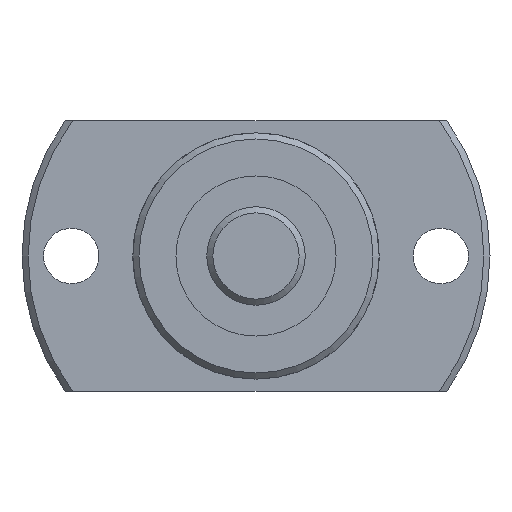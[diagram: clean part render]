
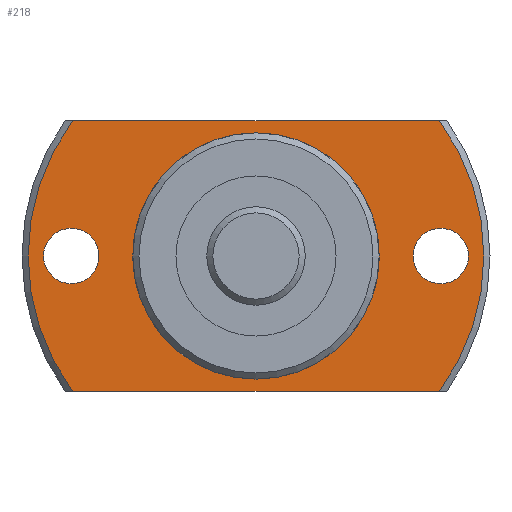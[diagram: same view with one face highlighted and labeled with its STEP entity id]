
A CAD part, left-side view. The second image highlights one B-rep face of the part: STEP entity #218.
In plain terms, the highlighted planar face has unit normal (-1, 0, 0).
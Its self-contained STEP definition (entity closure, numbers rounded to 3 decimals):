
#218 = ADVANCED_FACE( '', ( #368, #369, #370, #371 ), #372, .F. );
#368 = FACE_OUTER_BOUND( '', #547, .T. );
#369 = FACE_BOUND( '', #548, .T. );
#370 = FACE_BOUND( '', #549, .T. );
#371 = FACE_BOUND( '', #550, .T. );
#372 = PLANE( '', #551 );
#547 = EDGE_LOOP( '', ( #934, #935, #936, #937 ) );
#548 = EDGE_LOOP( '', ( #938 ) );
#549 = EDGE_LOOP( '', ( #939 ) );
#550 = EDGE_LOOP( '', ( #940 ) );
#551 = AXIS2_PLACEMENT_3D( '', #941, #942, #943 );
#934 = ORIENTED_EDGE( '', *, *, #1143, .F. );
#935 = ORIENTED_EDGE( '', *, *, #1202, .T. );
#936 = ORIENTED_EDGE( '', *, *, #1213, .F. );
#937 = ORIENTED_EDGE( '', *, *, #1137, .T. );
#938 = ORIENTED_EDGE( '', *, *, #1198, .T. );
#939 = ORIENTED_EDGE( '', *, *, #1196, .T. );
#940 = ORIENTED_EDGE( '', *, *, #1214, .T. );
#941 = CARTESIAN_POINT( '', ( 19., 9.85, 0. ) );
#942 = DIRECTION( '', ( 1., 0., 0. ) );
#943 = DIRECTION( '', ( 0., 0., -1. ) );
#1137 = EDGE_CURVE( '', #1307, #1305, #1308, .T. );
#1143 = EDGE_CURVE( '', #1318, #1305, #1319, .T. );
#1196 = EDGE_CURVE( '', #1413, #1413, #1414, .T. );
#1198 = EDGE_CURVE( '', #1417, #1417, #1418, .T. );
#1202 = EDGE_CURVE( '', #1318, #1424, #1426, .T. );
#1213 = EDGE_CURVE( '', #1307, #1424, #1441, .T. );
#1214 = EDGE_CURVE( '', #1442, #1442, #1443, .T. );
#1305 = VERTEX_POINT( '', #1568 );
#1307 = VERTEX_POINT( '', #1573 );
#1308 = LINE( '', #1574, #1575 );
#1318 = VERTEX_POINT( '', #1596 );
#1319 = CIRCLE( '', #1597, 18.5 );
#1413 = VERTEX_POINT( '', #1754 );
#1414 = CIRCLE( '', #1755, 2.25 );
#1417 = VERTEX_POINT( '', #1758 );
#1418 = CIRCLE( '', #1759, 2.25 );
#1424 = VERTEX_POINT( '', #1766 );
#1426 = LINE( '', #1771, #1772 );
#1441 = CIRCLE( '', #1795, 18.5 );
#1442 = VERTEX_POINT( '', #1796 );
#1443 = CIRCLE( '', #1797, 9.85 );
#1568 = CARTESIAN_POINT( '', ( 19., 14.874, 11. ) );
#1573 = CARTESIAN_POINT( '', ( 19., -14.874, 11. ) );
#1574 = CARTESIAN_POINT( '', ( 19., 9.85, 11. ) );
#1575 = VECTOR( '', #1954, 1000. );
#1596 = CARTESIAN_POINT( '', ( 19., 14.874, -11. ) );
#1597 = AXIS2_PLACEMENT_3D( '', #1957, #1958, #1959 );
#1754 = CARTESIAN_POINT( '', ( 19., -15., -2.25 ) );
#1755 = AXIS2_PLACEMENT_3D( '', #2051, #2052, #2053 );
#1758 = CARTESIAN_POINT( '', ( 19., 15., -2.25 ) );
#1759 = AXIS2_PLACEMENT_3D( '', #2057, #2058, #2059 );
#1766 = CARTESIAN_POINT( '', ( 19., -14.874, -11. ) );
#1771 = CARTESIAN_POINT( '', ( 19., 9.85, -11. ) );
#1772 = VECTOR( '', #2064, 1000. );
#1795 = AXIS2_PLACEMENT_3D( '', #2085, #2086, #2087 );
#1796 = CARTESIAN_POINT( '', ( 19., 0., -9.85 ) );
#1797 = AXIS2_PLACEMENT_3D( '', #2088, #2089, #2090 );
#1954 = DIRECTION( '', ( 0., 1., 0. ) );
#1957 = CARTESIAN_POINT( '', ( 19., 0., 0. ) );
#1958 = DIRECTION( '', ( 1., 0., 0. ) );
#1959 = DIRECTION( '', ( 0., 0., -1. ) );
#2051 = CARTESIAN_POINT( '', ( 19., -15., 0. ) );
#2052 = DIRECTION( '', ( 1., 0., 0. ) );
#2053 = DIRECTION( '', ( 0., 0., -1. ) );
#2057 = CARTESIAN_POINT( '', ( 19., 15., 0. ) );
#2058 = DIRECTION( '', ( 1., 0., 0. ) );
#2059 = DIRECTION( '', ( 0., 0., -1. ) );
#2064 = DIRECTION( '', ( 0., -1., 0. ) );
#2085 = CARTESIAN_POINT( '', ( 19., 0., 0. ) );
#2086 = DIRECTION( '', ( 1., 0., 0. ) );
#2087 = DIRECTION( '', ( 0., 0., -1. ) );
#2088 = CARTESIAN_POINT( '', ( 19., 0., 0. ) );
#2089 = DIRECTION( '', ( 1., 0., 0. ) );
#2090 = DIRECTION( '', ( 0., 0., -1. ) );
